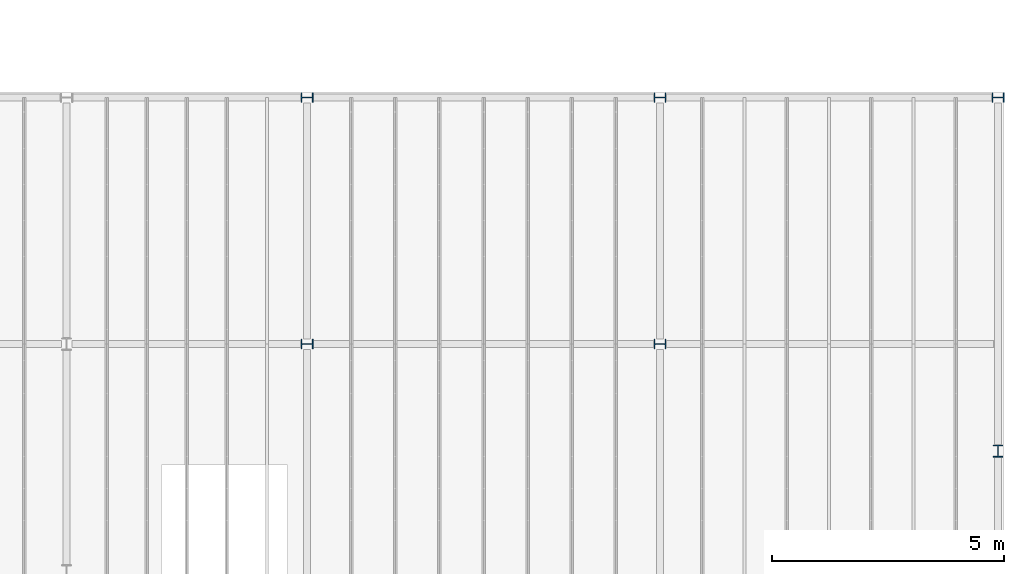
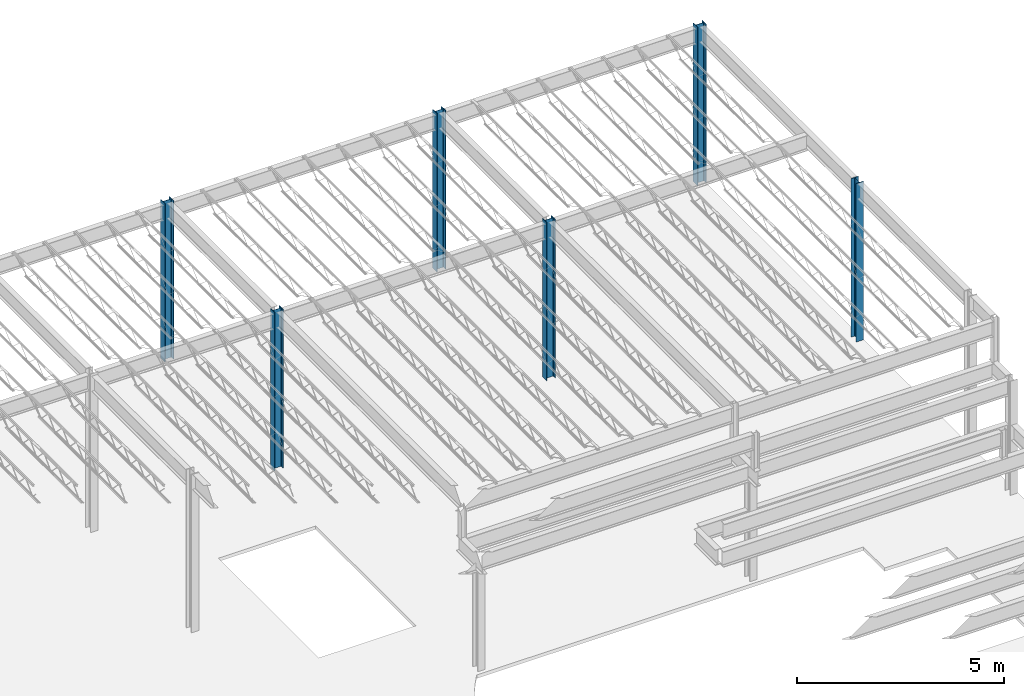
# One storey, part 6 of 119: 6 columns.
"""IFC2X3 building model written with IfcOpenShell, lengths in metres."""

from ifc_helpers import new_model, entity, si_unit, converted_unit, frame, frame_2d, origin, place, context, project, spatial, polyline, circle_curve, parameter, trimmed, segment, composite_curve, outline, extrude, source, transform, mapped, material, type_object, type_shapes, element, save


model = new_model("IFC2X3")

# Units and contexts
model_context = context("Model", 3, precision=1e-09, world=origin())
plan_context = context("Plan", 3, precision=1e-09, world=origin())
ifc_project = project(units=[si_unit("LENGTHUNIT", "METRE"), si_unit("AREAUNIT", "SQUARE_METRE"), si_unit("VOLUMEUNIT", "CUBIC_METRE"), converted_unit("PLANEANGLEUNIT", "DEGREE", entity("IfcRatioMeasure", 0.01745329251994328), si_unit("PLANEANGLEUNIT", "RADIAN"), dimensions=[0, 0, 0, 0, 0, 0, 0]), si_unit("TIMEUNIT", "SECOND")], contexts=[model_context, plan_context])

# Site, building, storey
site_placement = place(None, origin())
site = spatial("IfcSite", under=ifc_project, at=site_placement, Name="Default", CompositionType="ELEMENT")
building_placement = place(site_placement, origin())
building = spatial("IfcBuilding", under=site, at=building_placement, CompositionType="ELEMENT")
storey_placement = place(building_placement, frame((0.0, 0.0, 4.570000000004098)))
storey = spatial("IfcBuildingStorey", under=building, at=storey_placement, Name="Second Floor", CompositionType="ELEMENT", Elevation=4.570000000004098)

# Columns
ifc_material = material(Name="Metal - Steel - 345 MPa")
column_type = type_object("IfcColumnType", Name="W250X67", PredefinedType="COLUMN")
shared_shape = source(origin(), model_context, "Body", "SweptSolid", [
    extrude(outline(composite_curve([segment(polyline([(-0.102, -0.1285), (0.102, -0.1285)]), True, "CONTINUOUS"), segment(polyline([(0.102, -0.1285), (0.102, -0.1128)]), True, "CONTINUOUS"), segment(polyline([(0.102, -0.1128), (0.02174999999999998, -0.1128)]), True, "CONTINUOUS"), segment(trimmed(circle_curve(frame_2d((0.02174999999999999, -0.09549999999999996), x_axis=(-1.0, 0.0)), 0.0173), [parameter(4.071109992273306e-13)], [parameter(90.00000000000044)], True, "PARAMETER"), False, "CONTINUOUS"), segment(polyline([(0.004449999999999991, -0.09549999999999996), (0.004449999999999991, 0.09549999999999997)]), True, "CONTINUOUS"), segment(trimmed(circle_curve(frame_2d((0.02174999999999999, 0.09549999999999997), x_axis=(-1.0, 0.0)), 0.0173), [parameter(270.0000000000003)], [parameter(3.562221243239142e-13)], True, "PARAMETER"), False, "CONTINUOUS"), segment(polyline([(0.02174999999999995, 0.1128), (0.102, 0.1128)]), True, "CONTINUOUS"), segment(polyline([(0.102, 0.1128), (0.102, 0.1285)]), True, "CONTINUOUS"), segment(polyline([(0.102, 0.1285), (-0.102, 0.1285)]), True, "CONTINUOUS"), segment(polyline([(-0.102, 0.1285), (-0.102, 0.1128)]), True, "CONTINUOUS"), segment(polyline([(-0.102, 0.1128), (-0.02174999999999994, 0.1128)]), True, "CONTINUOUS"), segment(trimmed(circle_curve(frame_2d((-0.02175000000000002, 0.09549999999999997), x_axis=(-1.0, 0.0)), 0.0173), [parameter(179.9999999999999)], [parameter(269.9999999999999)], True, "PARAMETER"), False, "CONTINUOUS"), segment(polyline([(-0.004450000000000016, 0.09550000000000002), (-0.004450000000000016, -0.09549999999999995)]), True, "CONTINUOUS"), segment(trimmed(circle_curve(frame_2d((-0.02175000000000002, -0.09549999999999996), x_axis=(-1.0, 0.0)), 0.0173), [parameter(90.00000000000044)], [parameter(180.0000000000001)], True, "PARAMETER"), False, "CONTINUOUS"), segment(polyline([(-0.02175000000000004, -0.1128), (-0.102, -0.1128)]), True, "CONTINUOUS"), segment(polyline([(-0.102, -0.1128), (-0.102, -0.1285)]), True, "CONTINUOUS")], self_intersect=False)), frame((0.0, 0.0, 4.570000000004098), z_axis=(0.0, 0.0, 1.0), x_axis=(-1.0, 0.0, 0.0)), (0.0, 0.0, 1.0), 4.679999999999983),
])
type_shapes(column_type, [shared_shape])
for number, where, z_axis, x_axis in (
    (1, (-7.279999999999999, 50.08999999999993, -4.570000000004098), (0.0, 0.0, 1.0), (0.0, 1.0, 0.0)),
    (2, (-14.87997499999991, 50.08999999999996, -4.570000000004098), (0.0, 0.0, 1.0), (0.0, 1.0, 0.0)),
    (3, (0.0, 50.08999999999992, -4.570000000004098), (0.0, 0.0, 1.0), (0.0, 1.0, 0.0)),
    (4, (-14.87997499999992, 44.77999999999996, -4.570000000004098), (0.0, 0.0, 1.0), (0.0, 1.0, 0.0)),
    (5, (0.0, 42.47764480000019, -4.570000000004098), (0.0, 0.0, 1.0), (-1.0, 0.0, 0.0)),
    (6, (-7.280000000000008, 44.77999999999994, -4.570000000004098), (0.0, 0.0, 1.0), (0.0, 1.0, 0.0)),
):
    element("IfcColumn", number, at=place(storey_placement, frame(where, z_axis=z_axis, x_axis=x_axis)), inside=storey, type_object=column_type, material=ifc_material, Name="M_W-Wide Flange-Column:W250X67:W250X67", ObjectType="W250X67", context=model_context, shape_type="MappedRepresentation", body=[
        mapped(shared_shape, transform((0.0, 0.0, 0.0), scale=1.0)),
    ])

save(model, "model.ifc")
